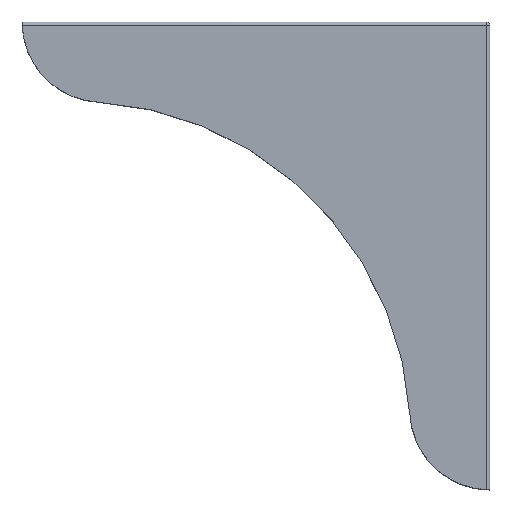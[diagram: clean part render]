
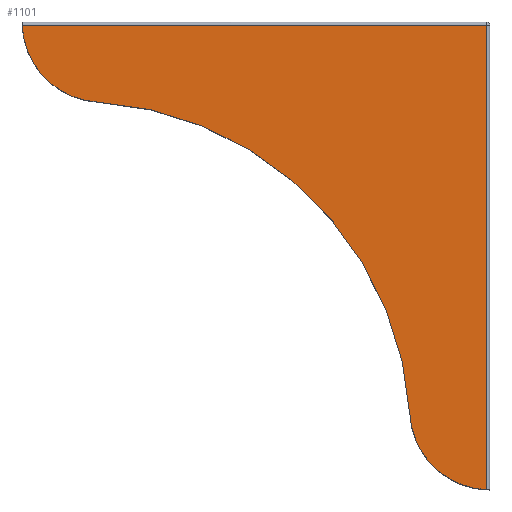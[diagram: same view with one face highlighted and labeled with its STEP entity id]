
A CAD part, top view. The second image highlights one B-rep face of the part: STEP entity #1101.
In plain terms, the highlighted planar face has unit normal (0, 0, 1).
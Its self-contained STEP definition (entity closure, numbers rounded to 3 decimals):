
#27 = CIRCLE ( 'NONE', #1589, 12. ) ;
#37 = ORIENTED_EDGE ( 'NONE', *, *, #722, .T. ) ;
#233 = EDGE_CURVE ( 'NONE', #453, #989, #510, .T. ) ;
#289 = PLANE ( 'NONE',  #1742 ) ;
#453 = VERTEX_POINT ( 'NONE', #1226 ) ;
#456 = FACE_OUTER_BOUND ( 'NONE', #1371, .T. ) ;
#510 = CIRCLE ( 'NONE', #759, 50. ) ;
#517 = DIRECTION ( 'NONE',  ( -1., 0., 0. ) ) ;
#518 = DIRECTION ( 'NONE',  ( 0., 0., -1. ) ) ;
#545 = DIRECTION ( 'NONE',  ( 1., 0., 0. ) ) ;
#605 = CARTESIAN_POINT ( 'NONE',  ( -69.99, 65.5, 10. ) ) ;
#718 = CARTESIAN_POINT ( 'NONE',  ( -0.5, 8., 10. ) ) ;
#722 = EDGE_CURVE ( 'NONE', #956, #453, #1644, .T. ) ;
#759 = AXIS2_PLACEMENT_3D ( 'NONE', #1328, #884, #1694 ) ;
#766 = ORIENTED_EDGE ( 'NONE', *, *, #1091, .T. ) ;
#798 = VERTEX_POINT ( 'NONE', #1531 ) ;
#884 = DIRECTION ( 'NONE',  ( 0., 0., -1. ) ) ;
#903 = DIRECTION ( 'NONE',  ( 0., 0., 1. ) ) ;
#922 = LINE ( 'NONE', #718, #1963 ) ;
#956 = VERTEX_POINT ( 'NONE', #605 ) ;
#958 = DIRECTION ( 'NONE',  ( -1., 0., 0. ) ) ;
#989 = VERTEX_POINT ( 'NONE', #1258 ) ;
#1091 = EDGE_CURVE ( 'NONE', #989, #798, #27, .T. ) ;
#1101 = ADVANCED_FACE ( 'NONE', ( #456 ), #289, .F. ) ;
#1121 = DIRECTION ( 'NONE',  ( 0., 0., 1. ) ) ;
#1170 = VERTEX_POINT ( 'NONE', #2522 ) ;
#1225 = AXIS2_PLACEMENT_3D ( 'NONE', #2336, #1121, #545 ) ;
#1226 = CARTESIAN_POINT ( 'NONE',  ( -58.751, 54.024, 10. ) ) ;
#1258 = CARTESIAN_POINT ( 'NONE',  ( -11.976, 7.249, 10. ) ) ;
#1328 = CARTESIAN_POINT ( 'NONE',  ( -61.879, 4.121, 10. ) ) ;
#1371 = EDGE_LOOP ( 'NONE', ( #2366, #1763, #37, #1732, #766 ) ) ;
#1493 = CARTESIAN_POINT ( 'NONE',  ( 0., 8., 10. ) ) ;
#1531 = CARTESIAN_POINT ( 'NONE',  ( -0.5, -3.99, 10. ) ) ;
#1554 = DIRECTION ( 'NONE',  ( 0., 1., 0. ) ) ;
#1589 = AXIS2_PLACEMENT_3D ( 'NONE', #1493, #903, #2285 ) ;
#1644 = CIRCLE ( 'NONE', #1225, 12. ) ;
#1694 = DIRECTION ( 'NONE',  ( 1., 0., 0. ) ) ;
#1700 = CARTESIAN_POINT ( 'NONE',  ( 0., 8., 10. ) ) ;
#1732 = ORIENTED_EDGE ( 'NONE', *, *, #233, .T. ) ;
#1742 = AXIS2_PLACEMENT_3D ( 'NONE', #1700, #518, #958 ) ;
#1763 = ORIENTED_EDGE ( 'NONE', *, *, #2124, .T. ) ;
#1925 = CARTESIAN_POINT ( 'NONE',  ( 0., 65.5, 10. ) ) ;
#1963 = VECTOR ( 'NONE', #1554, 1000. ) ;
#2124 = EDGE_CURVE ( 'NONE', #1170, #956, #2333, .T. ) ;
#2272 = VECTOR ( 'NONE', #517, 1000. ) ;
#2285 = DIRECTION ( 'NONE',  ( -1., 0., 0. ) ) ;
#2333 = LINE ( 'NONE', #1925, #2272 ) ;
#2336 = CARTESIAN_POINT ( 'NONE',  ( -58., 66., 10. ) ) ;
#2366 = ORIENTED_EDGE ( 'NONE', *, *, #2514, .T. ) ;
#2514 = EDGE_CURVE ( 'NONE', #798, #1170, #922, .T. ) ;
#2522 = CARTESIAN_POINT ( 'NONE',  ( -0.5, 65.5, 10. ) ) ;
